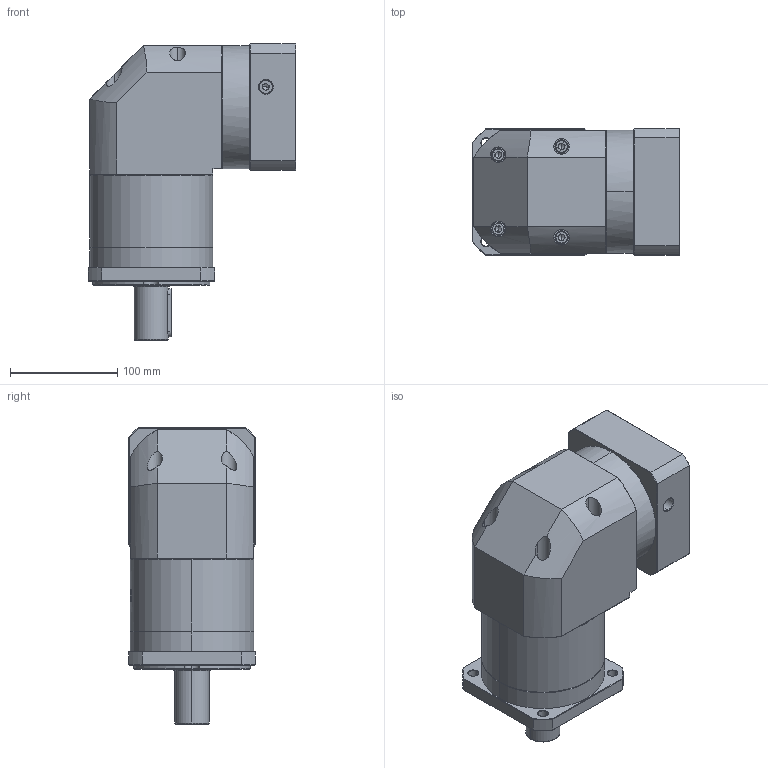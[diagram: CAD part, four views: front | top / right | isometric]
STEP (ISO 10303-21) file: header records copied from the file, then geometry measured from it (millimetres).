
FILE_DESCRIPTION (( 'STEP AP214' ), '1' );
FILE_NAME ('ZFR120A-D32-L2-P2-22-110-130-M8.step', '2023-08-27T08:09:07', ( '' ), ( '' ), 'SwSTEP 2.0', 'SolidWorks 2016', '' );
FILE_SCHEMA (( 'AUTOMOTIVE_DESIGN' ));
Length unit declared in the file: millimetre
Products named in the file (1): ZFR120A-D32-L2-P2-22-110-130-M8
Bounding box: 193.9 x 118 x 276.5 mm (x, y, z)
Volume: 3183632.2 mm3; surface area: 255395.2 mm2
Topology: 6 solids, 6 shells, 2266 faces, 5967 edges, 3806 vertices
Faces by surface type: plane 1061, cylinder 434, bspline 425, cone 338, torus 8
Entity records: 124357 total; most frequent: CARTESIAN_POINT 49023, ORIENTED_EDGE 11874, DIRECTION 8603, EDGE_CURVE 5937, VERTEX_POINT 3806, LINE 3159, VECTOR 3159, AXIS2_PLACEMENT_3D 2722
